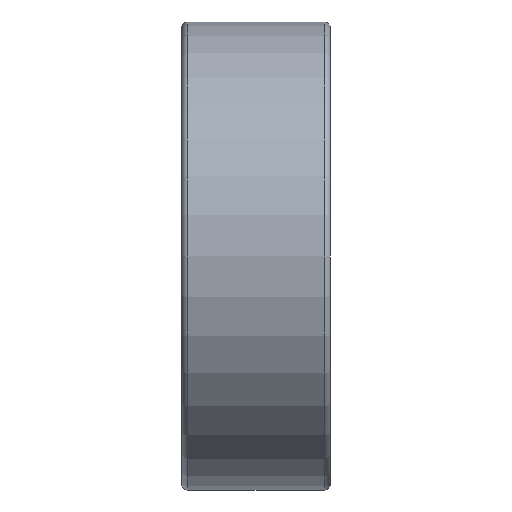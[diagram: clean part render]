
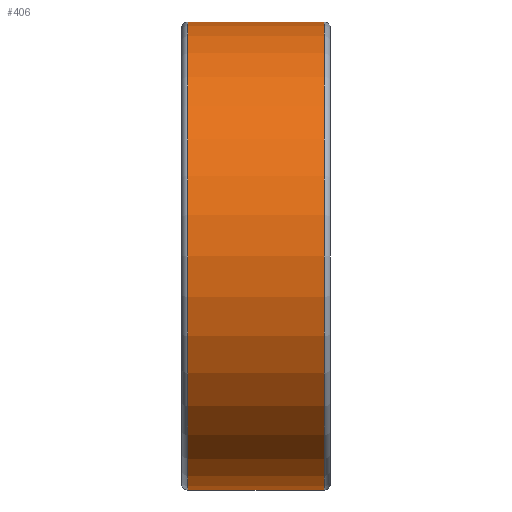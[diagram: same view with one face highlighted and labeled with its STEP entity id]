
A CAD part, front view. The second image highlights one B-rep face of the part: STEP entity #406.
In plain terms, the highlighted cylindrical face has radius 11 mm (diameter 22 mm), a full revolution.
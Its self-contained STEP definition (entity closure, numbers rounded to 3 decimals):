
#140=CYLINDRICAL_SURFACE('',#610,11.);
#204=EDGE_LOOP('',(#280));
#205=EDGE_LOOP('',(#281));
#280=ORIENTED_EDGE('',*,*,#326,.F.);
#281=ORIENTED_EDGE('',*,*,#324,.T.);
#324=EDGE_CURVE('',#555,#555,#344,.T.);
#326=EDGE_CURVE('',#557,#557,#346,.T.);
#344=CIRCLE('',#606,11.);
#346=CIRCLE('',#609,11.);
#406=ADVANCED_FACE('',(#493,#494),#140,.T.);
#493=FACE_BOUND('',#204,.T.);
#494=FACE_BOUND('',#205,.T.);
#555=VERTEX_POINT('',#1866);
#557=VERTEX_POINT('',#1871);
#606=AXIS2_PLACEMENT_3D('',#1865,#707,#708);
#609=AXIS2_PLACEMENT_3D('',#1870,#713,#714);
#610=AXIS2_PLACEMENT_3D('',#1872,#715,#716);
#707=DIRECTION('',(1.,0.,0.));
#708=DIRECTION('',(0.,0.,-1.));
#713=DIRECTION('',(1.,0.,0.));
#714=DIRECTION('',(0.,0.,-1.));
#715=DIRECTION('',(1.,0.,0.));
#716=DIRECTION('',(0.,0.,-1.));
#1865=CARTESIAN_POINT('',(-3.2,0.,0.));
#1866=CARTESIAN_POINT('',(-3.2,0.,-11.));
#1870=CARTESIAN_POINT('',(3.2,0.,0.));
#1871=CARTESIAN_POINT('',(3.2,0.,-11.));
#1872=CARTESIAN_POINT('',(-3.2,0.,0.));
